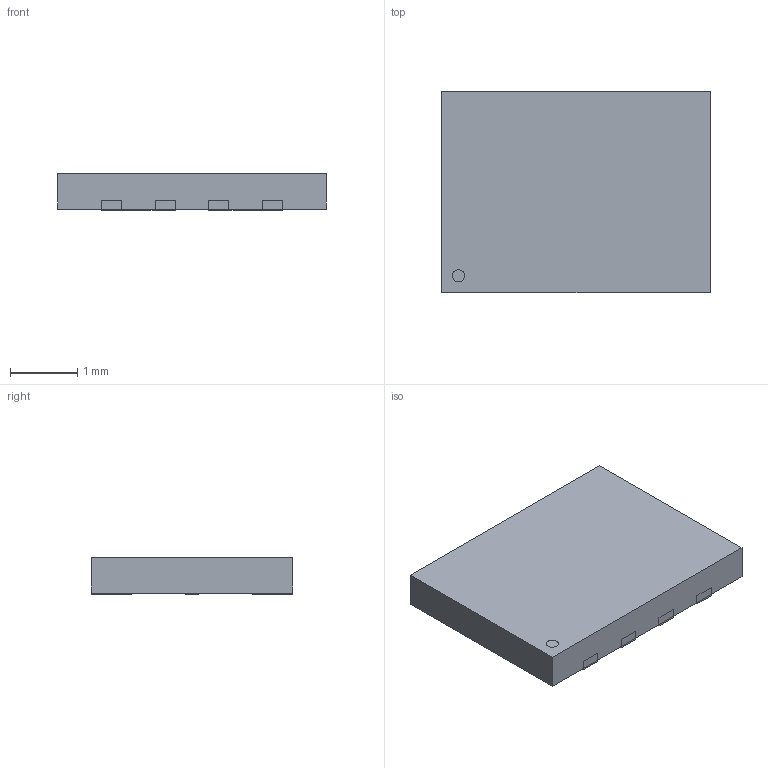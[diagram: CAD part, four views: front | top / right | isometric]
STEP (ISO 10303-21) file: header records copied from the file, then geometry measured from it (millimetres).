
FILE_DESCRIPTION(('Open CASCADE Model'),'2;1');
FILE_NAME('Open CASCADE Shape Model','2026-10-10T18:45:21',('Author'),( 'Open CASCADE'),'Open CASCADE STEP processor 7.9','Open CASCADE 7.9' ,'Unknown');
FILE_SCHEMA(('AUTOMOTIVE_DESIGN { 1 0 10303 214 1 1 1 1 }'));
Length unit declared in the file: millimetre
Products named in the file (13): ISSI_USON8_4x3mm_T_Drawing_Derived_Nominal; nominal_mold_body; lead_bottom_0; lead_top_0; lead_bottom_1; lead_top_1; lead_bottom_2; lead_top_2; lead_bottom_3; lead_top_3; center_tab_0; center_tab_1; pin1_visual_mark
Assembly tree (12 placements, depth 2):
  ISSI_USON8_4x3mm_T_Drawing_Derived_Nominal
    nominal_mold_body
    lead_bottom_0
    lead_top_0
    lead_bottom_1
    lead_top_1
    lead_bottom_2
    lead_top_2
    lead_bottom_3
    lead_top_3
    center_tab_0
    center_tab_1
    pin1_visual_mark
Bounding box: 4 x 3 x 0.55 mm (x, y, z)
Volume: 6.6 mm3; surface area: 37.8 mm2
Topology: 12 solids, 12 shells, 69 faces, 135 edges, 90 vertices
Faces by surface type: plane 68, cylinder 1
Full cylindrical faces by diameter (mm): 0.18 x1
Entity records: 3789 total; most frequent: CARTESIAN_POINT 577, DIRECTION 571, LINE 401, VECTOR 401, ORIENTED_EDGE 270, PCURVE 270, DEFINITIONAL_REPRESENTATION 270, EDGE_CURVE 135
